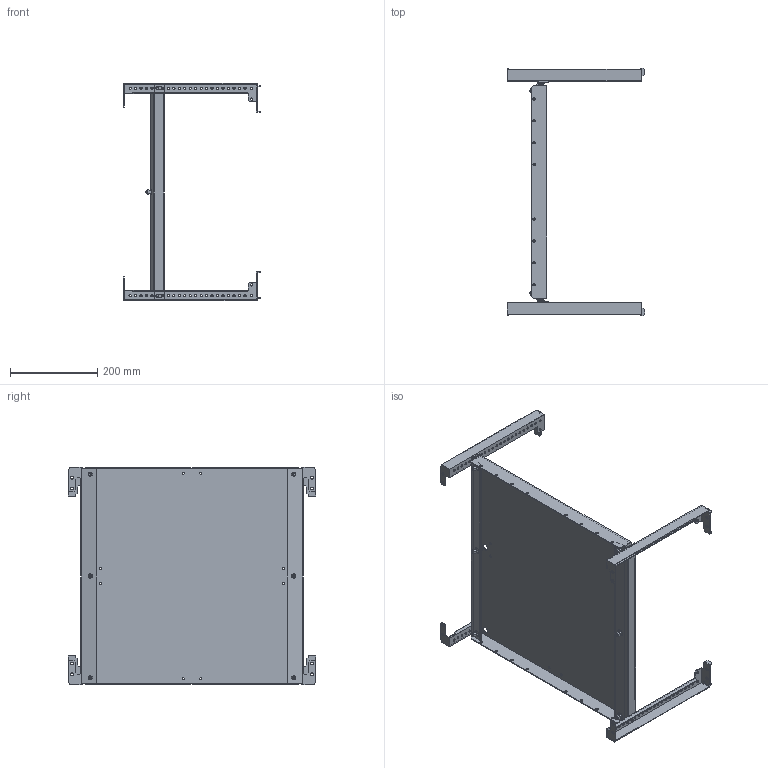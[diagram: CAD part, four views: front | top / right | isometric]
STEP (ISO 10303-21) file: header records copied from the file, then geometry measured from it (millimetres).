
FILE_DESCRIPTION (( 'STEP AP214' ), '1' );
FILE_NAME ('FO-00-MPU-050-060 Ïàíåëü ìîíòàæíàÿ óíèâåðñàëüíàÿ 500?600 ìì.STEP', '2025-07-16T07:07:05', ( '' ), ( '' ), 'SwSTEP 2.0', 'SolidWorks 2023', '' );
FILE_SCHEMA (( 'AUTOMOTIVE_DESIGN' ));
Length unit declared in the file: millimetre
Products named in the file (5): Панель монтажная универсальная 500×600; Винты DIN 912 4xM6x20 500x600; Траверса горизонтальная; FO-00-MPU-050-060 Панель монтажная универсальная 500×600 мм; Траверса горизонтальнаяD
Assembly tree (6 placements, depth 2):
  FO-00-MPU-050-060 Панель монтажная универсальная 500×600 мм
    Панель монтажная универсальная 500×600
    Винты DIN 912 4xM6x20 500x600
    Траверса горизонтальная  x2
    Траверса горизонтальнаяD  x2
Bounding box: 314.53 x 565.63 x 497 mm (x, y, z)
Volume: 947396.6 mm3; surface area: 968165.9 mm2
Topology: 9 solids, 15 shells, 1146 faces, 3064 edges, 2016 vertices
Faces by surface type: cylinder 516, plane 514, cone 76, torus 40
Entity records: 30511 total; most frequent: CARTESIAN_POINT 6615, DIRECTION 5076, ORIENTED_EDGE 4796, EDGE_CURVE 2398, AXIS2_PLACEMENT_3D 1865, VERTEX_POINT 1572, LINE 1346, VECTOR 1346
